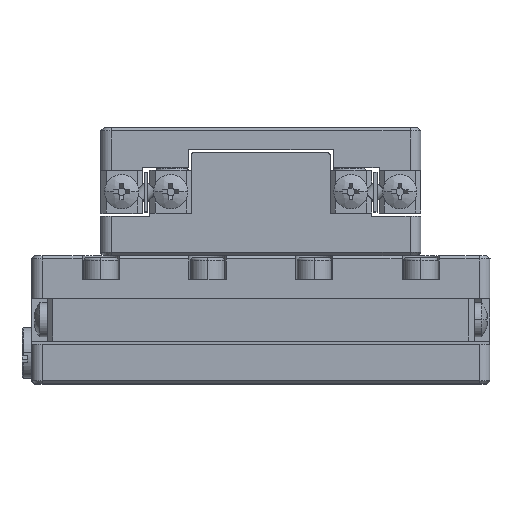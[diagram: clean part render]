
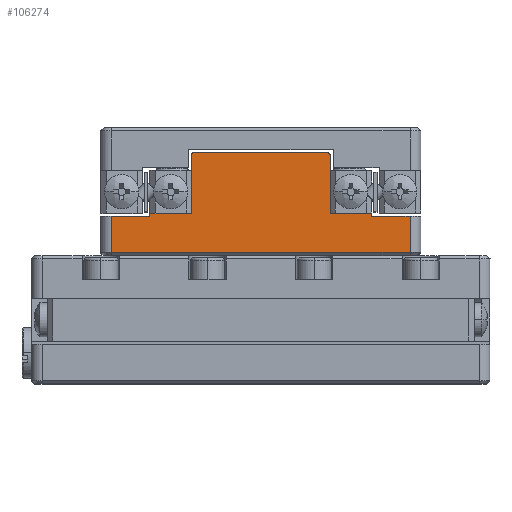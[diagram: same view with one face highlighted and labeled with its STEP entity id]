
A CAD part, top view. The second image highlights one B-rep face of the part: STEP entity #106274.
In plain terms, the highlighted planar face has unit normal (0, 0, 1).
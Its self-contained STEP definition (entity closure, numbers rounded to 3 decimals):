
#31 = DIRECTION ( 'NONE',  ( -1., 0., 0. ) ) ;
#219 = EDGE_CURVE ( 'NONE', #98905, #85120, #4033, .T. ) ;
#546 = VERTEX_POINT ( 'NONE', #59109 ) ;
#2225 = ORIENTED_EDGE ( 'NONE', *, *, #9044, .F. ) ;
#3469 = EDGE_CURVE ( 'NONE', #107992, #64685, #104944, .T. ) ;
#4033 = LINE ( 'NONE', #46449, #112986 ) ;
#5128 = CARTESIAN_POINT ( 'NONE',  ( 18.236, 4.051, 21.5 ) ) ;
#6432 = VERTEX_POINT ( 'NONE', #104709 ) ;
#8958 = VECTOR ( 'NONE', #108942, 1000. ) ;
#9044 = EDGE_CURVE ( 'NONE', #59008, #107992, #106343, .T. ) ;
#10247 = CARTESIAN_POINT ( 'NONE',  ( 18.236, 3.751, 21.5 ) ) ;
#10612 = VERTEX_POINT ( 'NONE', #70192 ) ;
#10782 = PLANE ( 'NONE',  #43654 ) ;
#11001 = CARTESIAN_POINT ( 'NONE',  ( 43.636, 9.751, 21.5 ) ) ;
#11457 = ORIENTED_EDGE ( 'NONE', *, *, #80546, .F. ) ;
#12248 = EDGE_CURVE ( 'NONE', #66016, #61624, #81435, .T. ) ;
#13781 = CARTESIAN_POINT ( 'NONE',  ( 19.236, 3.751, 21.5 ) ) ;
#14416 = DIRECTION ( 'NONE',  ( 1., 0., 0. ) ) ;
#15410 = DIRECTION ( 'NONE',  ( 0., -1., 0. ) ) ;
#16731 = DIRECTION ( 'NONE',  ( 0., 1., 0. ) ) ;
#16982 = VERTEX_POINT ( 'NONE', #13781 ) ;
#17129 = ORIENTED_EDGE ( 'NONE', *, *, #219, .F. ) ;
#18072 = CIRCLE ( 'NONE', #45533, 0.3 ) ;
#21497 = ORIENTED_EDGE ( 'NONE', *, *, #41026, .F. ) ;
#24526 = CARTESIAN_POINT ( 'NONE',  ( 26.736, 4.051, 21.5 ) ) ;
#25865 = CARTESIAN_POINT ( 'NONE',  ( 39.436, 9.451, 21.5 ) ) ;
#28190 = VECTOR ( 'NONE', #41470, 1000. ) ;
#28897 = CARTESIAN_POINT ( 'NONE',  ( 27.036, 9.451, 21.5 ) ) ;
#30839 = EDGE_CURVE ( 'NONE', #546, #6432, #18072, .T. ) ;
#32416 = LINE ( 'NONE', #65407, #8958 ) ;
#33528 = CARTESIAN_POINT ( 'NONE',  ( 39.736, 9.751, 21.5 ) ) ;
#34357 = DIRECTION ( 'NONE',  ( 0., 0., -1. ) ) ;
#35098 = EDGE_CURVE ( 'NONE', #85120, #91246, #76122, .T. ) ;
#36608 = VECTOR ( 'NONE', #77049, 1000. ) ;
#38805 = VECTOR ( 'NONE', #109203, 1000. ) ;
#38870 = CARTESIAN_POINT ( 'NONE',  ( 26.736, 9.751, 21.5 ) ) ;
#39166 = CARTESIAN_POINT ( 'NONE',  ( 18.236, 0.351, 21.5 ) ) ;
#40586 = EDGE_CURVE ( 'NONE', #10612, #546, #93141, .T. ) ;
#41026 = EDGE_CURVE ( 'NONE', #67817, #84915, #92806, .T. ) ;
#41316 = CARTESIAN_POINT ( 'NONE',  ( 39.736, 4.051, 21.5 ) ) ;
#41470 = DIRECTION ( 'NONE',  ( 1., 0., 0. ) ) ;
#42681 = ORIENTED_EDGE ( 'NONE', *, *, #67580, .F. ) ;
#42875 = VECTOR ( 'NONE', #59966, 1000. ) ;
#43654 = AXIS2_PLACEMENT_3D ( 'NONE', #108986, #98942, #108251 ) ;
#44512 = DIRECTION ( 'NONE',  ( 1., 0., 0. ) ) ;
#45047 = DIRECTION ( 'NONE',  ( 0., 0., -1. ) ) ;
#45470 = CARTESIAN_POINT ( 'NONE',  ( 47.236, 0.351, 21.5 ) ) ;
#45533 = AXIS2_PLACEMENT_3D ( 'NONE', #25865, #34357, #31 ) ;
#46449 = CARTESIAN_POINT ( 'NONE',  ( 47.236, 9.751, 21.5 ) ) ;
#48567 = LINE ( 'NONE', #33528, #51318 ) ;
#49589 = EDGE_CURVE ( 'NONE', #16982, #66016, #89589, .T. ) ;
#50417 = ORIENTED_EDGE ( 'NONE', *, *, #35098, .F. ) ;
#51318 = VECTOR ( 'NONE', #15410, 1000. ) ;
#51810 = CARTESIAN_POINT ( 'NONE',  ( 22.836, 9.751, 21.5 ) ) ;
#55288 = DIRECTION ( 'NONE',  ( 0., -1., 0. ) ) ;
#56487 = DIRECTION ( 'NONE',  ( -1., 0., 0. ) ) ;
#56917 = ORIENTED_EDGE ( 'NONE', *, *, #3469, .F. ) ;
#57969 = EDGE_CURVE ( 'NONE', #6432, #59008, #48567, .T. ) ;
#58232 = VECTOR ( 'NONE', #56487, 1000. ) ;
#59008 = VERTEX_POINT ( 'NONE', #41316 ) ;
#59109 = CARTESIAN_POINT ( 'NONE',  ( 39.436, 9.751, 21.5 ) ) ;
#59376 = VECTOR ( 'NONE', #44512, 1000. ) ;
#59966 = DIRECTION ( 'NONE',  ( 0., 1., 0. ) ) ;
#61624 = VERTEX_POINT ( 'NONE', #86429 ) ;
#62010 = FACE_OUTER_BOUND ( 'NONE', #83078, .T. ) ;
#64352 = ORIENTED_EDGE ( 'NONE', *, *, #101603, .F. ) ;
#64685 = VERTEX_POINT ( 'NONE', #99523 ) ;
#65407 = CARTESIAN_POINT ( 'NONE',  ( 18.236, 3.751, 21.5 ) ) ;
#66016 = VERTEX_POINT ( 'NONE', #102664 ) ;
#67580 = EDGE_CURVE ( 'NONE', #64685, #98905, #32416, .T. ) ;
#67817 = VERTEX_POINT ( 'NONE', #24526 ) ;
#69123 = CARTESIAN_POINT ( 'NONE',  ( 19.236, 9.751, 21.5 ) ) ;
#70097 = AXIS2_PLACEMENT_3D ( 'NONE', #28897, #45047, #90052 ) ;
#70192 = CARTESIAN_POINT ( 'NONE',  ( 27.036, 9.751, 21.5 ) ) ;
#74666 = DIRECTION ( 'NONE',  ( 0., 1., 0. ) ) ;
#75168 = CARTESIAN_POINT ( 'NONE',  ( 43.636, 4.051, 21.5 ) ) ;
#75356 = CARTESIAN_POINT ( 'NONE',  ( 18.236, 9.751, 21.5 ) ) ;
#76122 = LINE ( 'NONE', #39166, #58232 ) ;
#77049 = DIRECTION ( 'NONE',  ( 1., 0., 0. ) ) ;
#77668 = VECTOR ( 'NONE', #74666, 1000. ) ;
#79585 = LINE ( 'NONE', #69123, #108598 ) ;
#79602 = CIRCLE ( 'NONE', #70097, 0.3 ) ;
#79723 = ORIENTED_EDGE ( 'NONE', *, *, #12248, .F. ) ;
#80546 = EDGE_CURVE ( 'NONE', #61624, #67817, #106754, .T. ) ;
#81435 = LINE ( 'NONE', #51810, #42875 ) ;
#82837 = VECTOR ( 'NONE', #14416, 1000. ) ;
#83078 = EDGE_LOOP ( 'NONE', ( #109637, #99272, #93147, #21497, #11457, #79723, #97623, #64352, #50417, #17129, #42681, #56917, #2225, #105878 ) ) ;
#84915 = VERTEX_POINT ( 'NONE', #103315 ) ;
#85120 = VERTEX_POINT ( 'NONE', #45470 ) ;
#86429 = CARTESIAN_POINT ( 'NONE',  ( 22.836, 4.051, 21.5 ) ) ;
#89589 = LINE ( 'NONE', #10247, #59376 ) ;
#90052 = DIRECTION ( 'NONE',  ( 1., 0., 0. ) ) ;
#91246 = VERTEX_POINT ( 'NONE', #110028 ) ;
#92806 = LINE ( 'NONE', #38870, #77668 ) ;
#93141 = LINE ( 'NONE', #75356, #36608 ) ;
#93147 = ORIENTED_EDGE ( 'NONE', *, *, #111056, .F. ) ;
#94239 = CARTESIAN_POINT ( 'NONE',  ( 18.236, 4.051, 21.5 ) ) ;
#97623 = ORIENTED_EDGE ( 'NONE', *, *, #49589, .F. ) ;
#98905 = VERTEX_POINT ( 'NONE', #100019 ) ;
#98942 = DIRECTION ( 'NONE',  ( 0., 0., -1. ) ) ;
#99272 = ORIENTED_EDGE ( 'NONE', *, *, #40586, .F. ) ;
#99523 = CARTESIAN_POINT ( 'NONE',  ( 43.636, 3.751, 21.5 ) ) ;
#100019 = CARTESIAN_POINT ( 'NONE',  ( 47.236, 3.751, 21.5 ) ) ;
#101603 = EDGE_CURVE ( 'NONE', #91246, #16982, #79585, .T. ) ;
#102664 = CARTESIAN_POINT ( 'NONE',  ( 22.836, 3.751, 21.5 ) ) ;
#103315 = CARTESIAN_POINT ( 'NONE',  ( 26.736, 9.451, 21.5 ) ) ;
#104709 = CARTESIAN_POINT ( 'NONE',  ( 39.736, 9.451, 21.5 ) ) ;
#104944 = LINE ( 'NONE', #11001, #38805 ) ;
#105878 = ORIENTED_EDGE ( 'NONE', *, *, #57969, .F. ) ;
#106274 = ADVANCED_FACE ( 'NONE', ( #62010 ), #10782, .F. ) ;
#106343 = LINE ( 'NONE', #5128, #82837 ) ;
#106754 = LINE ( 'NONE', #94239, #28190 ) ;
#107992 = VERTEX_POINT ( 'NONE', #75168 ) ;
#108251 = DIRECTION ( 'NONE',  ( -1., 0., 0. ) ) ;
#108598 = VECTOR ( 'NONE', #16731, 1000. ) ;
#108942 = DIRECTION ( 'NONE',  ( 1., 0., 0. ) ) ;
#108986 = CARTESIAN_POINT ( 'NONE',  ( 18.236, 9.751, 21.5 ) ) ;
#109203 = DIRECTION ( 'NONE',  ( 0., -1., 0. ) ) ;
#109637 = ORIENTED_EDGE ( 'NONE', *, *, #30839, .F. ) ;
#110028 = CARTESIAN_POINT ( 'NONE',  ( 19.236, 0.351, 21.5 ) ) ;
#111056 = EDGE_CURVE ( 'NONE', #84915, #10612, #79602, .T. ) ;
#112986 = VECTOR ( 'NONE', #55288, 1000. ) ;
